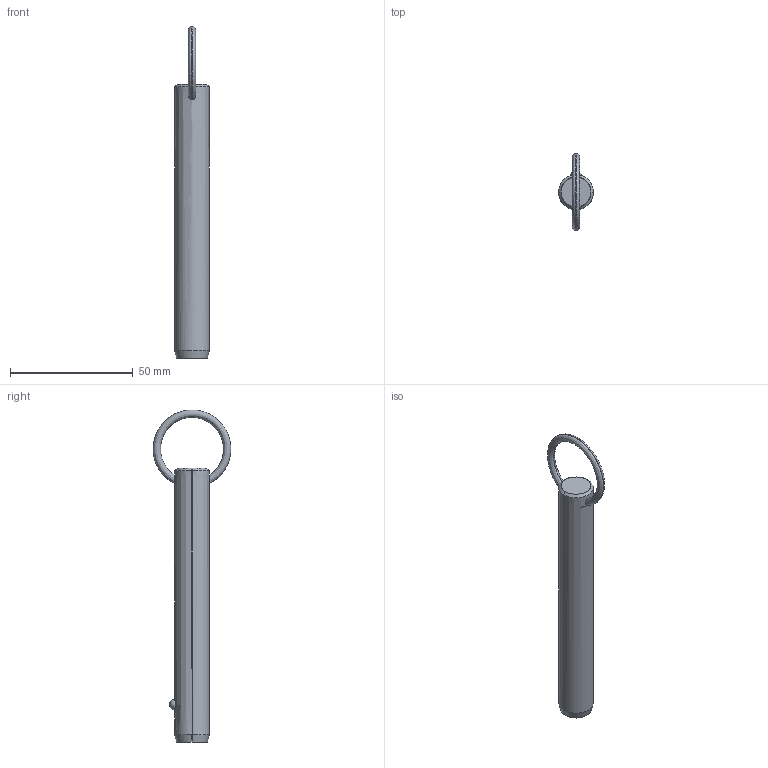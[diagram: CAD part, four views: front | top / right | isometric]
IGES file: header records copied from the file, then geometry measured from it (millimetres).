
Start section: SolidWorks IGES file using analytic representation for surfaces
Global section: file name: C:\Users\liam_\OneDrive\Documents\WORK\Work for WixRoyd\Job Files\J-00019 - Matt Davis CAD Checking\04. CAD Drawings\automotion20190605\P1250.2_v2\P1250.2_v2_20190729_IGES\P1250.056-340.igs; native system: SolidWorks 2017; preprocessor: SolidWorks 2017; author: liam_; date: 190729.232041; units: millimetre
Bounding box: 14.2 x 31.7 x 135.5 mm (x, y, z)
Surface area: 5948.9 mm2 (no closed solid volume)
Topology: 0 solids, 0 shells, 12 faces, 285 edges, 283 vertices
Faces by surface type: revolution 8, bspline 4
